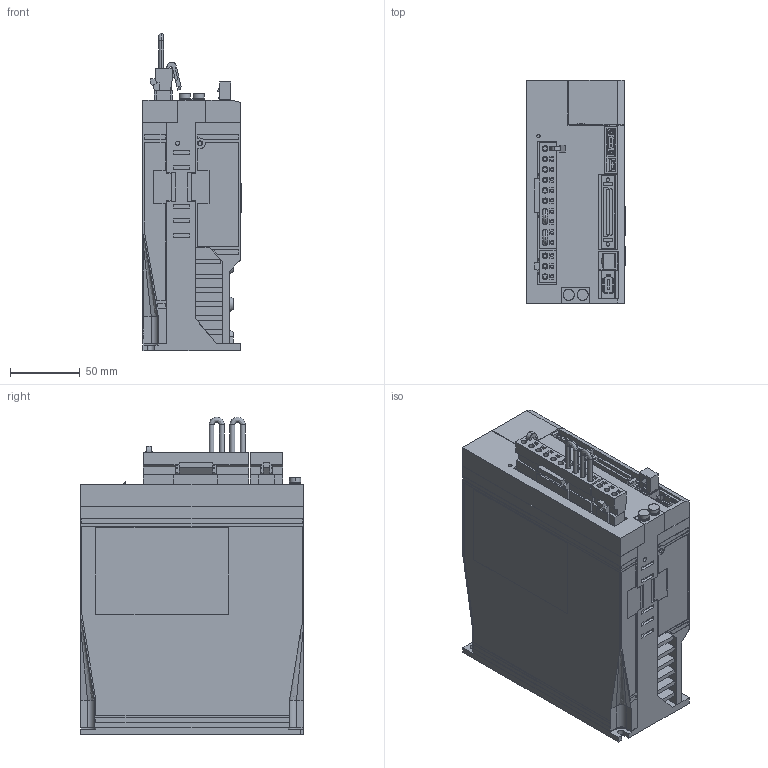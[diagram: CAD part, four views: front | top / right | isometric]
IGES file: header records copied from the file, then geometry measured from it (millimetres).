
Start section: SolidWorks IGES file using analytic representation for surfaces
Global section: file name: C:\YASKAWA\sgdv_3r8a0_a.IGS; native system: SolidWorks 2006 by SolidWorks Corporation; preprocessor: SolidWorks 2006 by SolidWorks Corporation; author: yamanouchi; date: 080617.172858; units: millimetre
Bounding box: 70.5 x 160 x 228 mm (x, y, z)
Surface area: 166791.3 mm2 (no closed solid volume)
Topology: 0 solids, 0 shells, 1940 faces, 16050 edges, 16049 vertices
Faces by surface type: bspline 1659, revolution 281
